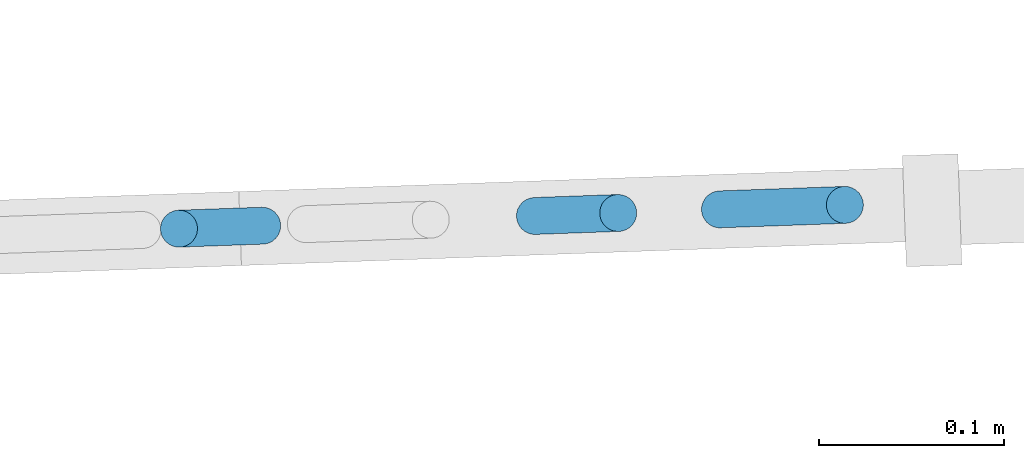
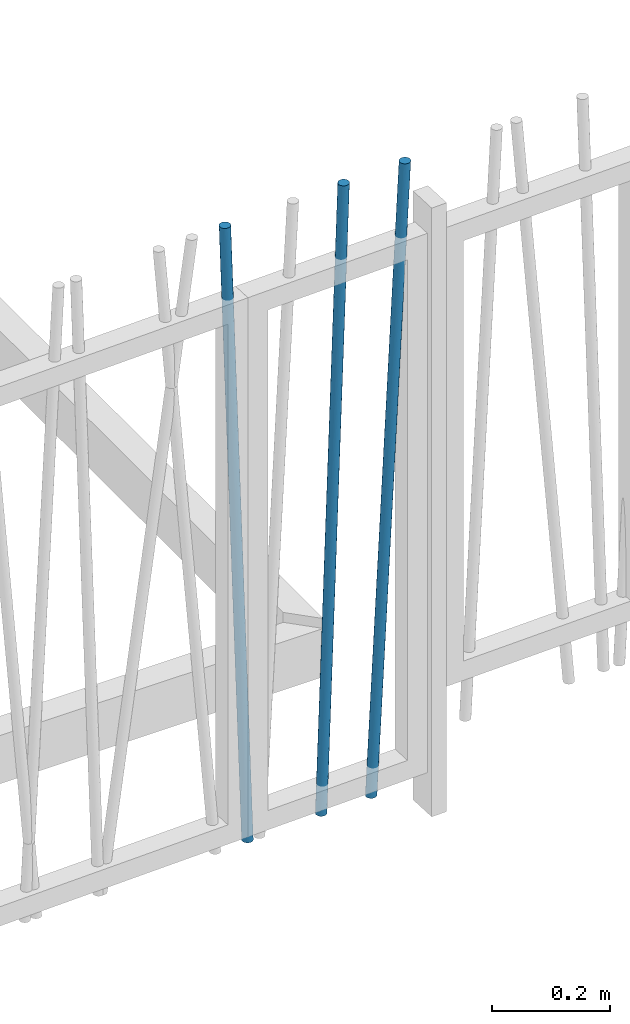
# One storey, part 13 of 171: 3 columns.
"""IFC2X3 building model written with IfcOpenShell, lengths in millimetres."""

from ifc_helpers import new_model, entity, si_unit, converted_unit, derived_unit, money_unit, direction, frame, origin_with_axes, origin_2d_with_axis, place, context, subcontext, project, spatial, circle, extrude, clip, halfspace, material, type_object, element, save


model = new_model("IFC2X3")

# Units and contexts
model_context = context("Model", 3, precision=0.01, world=origin_with_axes(), true_north=direction((0.0, 1.0)))
body_context = subcontext(model_context, "Body", "Model", "MODEL_VIEW")
ifc_project = project(units=[si_unit("LENGTHUNIT", "METRE", prefix="MILLI"), si_unit("AREAUNIT", "SQUARE_METRE"), si_unit("VOLUMEUNIT", "CUBIC_METRE"), converted_unit("PLANEANGLEUNIT", "DEGREE", entity("IfcPlaneAngleMeasure", 0.0174532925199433), si_unit("PLANEANGLEUNIT", "RADIAN"), dimensions=[0, 0, 0, 0, 0, 0, 0]), money_unit("USD"), converted_unit("TIMEUNIT", "Year", entity("IfcTimeMeasure", 31557600.0), si_unit("TIMEUNIT", "SECOND"), dimensions=[0, 0, 1, 0, 0, 0, 0]), si_unit("MASSUNIT", "GRAM", prefix="KILO"), si_unit("THERMODYNAMICTEMPERATUREUNIT", "DEGREE_CELSIUS"), si_unit("LUMINOUSINTENSITYUNIT", "LUMEN"), si_unit("ENERGYUNIT", "JOULE", prefix="MEGA"), derived_unit("THERMALCONDUCTANCEUNIT", [(si_unit("POWERUNIT", "WATT"), 1), (si_unit("LENGTHUNIT", "METRE"), -1), (si_unit("THERMODYNAMICTEMPERATUREUNIT", "KELVIN"), -1)]), derived_unit("SPECIFICHEATCAPACITYUNIT", [(si_unit("ENERGYUNIT", "JOULE"), 1), (si_unit("MASSUNIT", "GRAM", prefix="KILO"), -1), (si_unit("THERMODYNAMICTEMPERATUREUNIT", "KELVIN"), -1)]), derived_unit("MASSDENSITYUNIT", [(si_unit("MASSUNIT", "GRAM", prefix="KILO"), 1), (si_unit("VOLUMEUNIT", "CUBIC_METRE"), -1)])], contexts=[model_context])

# Site, building, storey
site_placement = place(None, origin_with_axes())
site = spatial("IfcSite", under=ifc_project, at=site_placement, Name="Site", CompositionType="ELEMENT")
building_placement = place(site_placement, origin_with_axes())
building = spatial("IfcBuilding", under=site, at=building_placement, Name="Bâtiment", CompositionType="ELEMENT")
storey_placement = place(building_placement, frame((0.0, 0.0, 3000.0), z_axis=(0.0, 0.0, 1.0), x_axis=(1.0, 0.0, 0.0)))
storey = spatial("IfcBuildingStorey", under=building, at=storey_placement, Name="rdc", CompositionType="ELEMENT", Elevation=3000.0)

# Columns
ifc_material = material(Name="Empty Fill 2959611567")
column_type = type_object("IfcColumnType", Name="Empty Fill 2959611567 D20", PredefinedType="NOTDEFINED")
column_1_placement = place(storey_placement, frame((2254056.002498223, -666825.8271042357, -2038.204478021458), z_axis=(0.0, 0.0, 1.0), x_axis=(0.03567989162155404, -0.9993632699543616, 0.0)))
element("IfcColumn", 1, at=column_1_placement, inside=storey, type_object=column_type, material=ifc_material, Name="Pilier-019", context=body_context, shape_type="Clipping", body=[
    clip(clip(extrude(circle(Radius=10.0, at=origin_2d_with_axis()), frame((0.0, -0.02437434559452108, -0.6979899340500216), z_axis=(0.0, -0.03489949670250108, -0.9993908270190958), x_axis=(-1.0, 0.0, 0.0)), (0.0, 0.0, -1.0), 1290.386526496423), halfspace(frame((0.0, 0.0, 0.0), z_axis=(0.0, 0.0, 1.0), x_axis=(0.0, -1.0, 0.0)), True)), halfspace(frame((0.0, 0.0, 1288.204478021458), z_axis=(0.0, 0.0, -1.0), x_axis=(0.0, 1.0, 0.0)), True)),
])
column_2_placement = place(storey_placement, frame((2254155.983399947, -666822.2575236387, -2038.204478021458), z_axis=(0.0, 0.0, 1.0), x_axis=(0.03567989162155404, -0.9993632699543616, 0.0)))
element("IfcColumn", 2, at=column_2_placement, inside=storey, type_object=column_type, material=ifc_material, Name="Pilier-019", context=body_context, shape_type="Clipping", body=[
    clip(clip(extrude(circle(Radius=10.0, at=origin_2d_with_axis()), frame((0.0, -0.05485622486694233, -1.046719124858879), z_axis=(0.0, -0.05233595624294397, -0.9986295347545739), x_axis=(-1.0, 0.0, 0.0)), (0.0, 0.0, -1.0), 1292.068651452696), halfspace(frame((0.0, 0.0, 0.0), z_axis=(0.0, 0.0, 1.0), x_axis=(0.0, -1.0, 0.0)), True)), halfspace(frame((0.0, 0.0, 1288.204478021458), z_axis=(0.0, 0.0, -1.0), x_axis=(0.0, 1.0, 0.0)), True)),
])
column_3_placement = place(storey_placement, frame((2253908.630608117, -666831.0886674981, -2038.204478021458), z_axis=(0.0, 0.0, 1.0), x_axis=(-0.03567989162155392, 0.9993632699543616, 0.0)))
element("IfcColumn", 3, at=column_3_placement, inside=storey, type_object=column_type, material=ifc_material, Name="Pilier-019", context=body_context, shape_type="Clipping", body=[
    clip(clip(extrude(circle(Radius=10.0, at=origin_2d_with_axis()), frame((0.0, -0.02437434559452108, -0.6979899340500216), z_axis=(0.0, 0.03489949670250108, 0.9993908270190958), x_axis=(1.0, 0.0, 0.0)), (0.0, 0.0, 1.0), 1290.386526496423), halfspace(frame((0.0, 0.0, 0.0), z_axis=(0.0, 0.0, 1.0), x_axis=(0.0, -1.0, 0.0)), True)), halfspace(frame((0.0, 0.0, 1288.204478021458), z_axis=(0.0, 0.0, -1.0), x_axis=(0.0, 1.0, 0.0)), True)),
])

save(model, "model.ifc")
